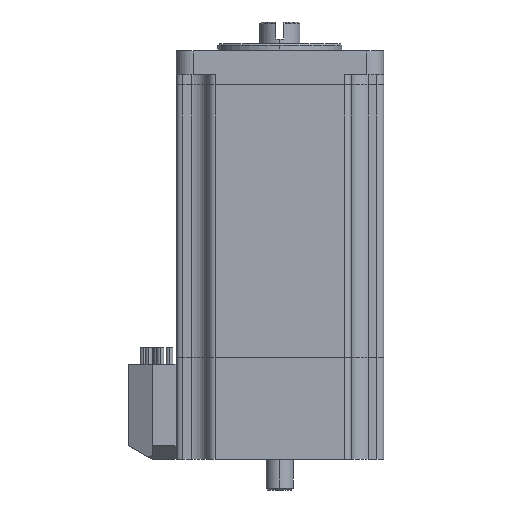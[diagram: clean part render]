
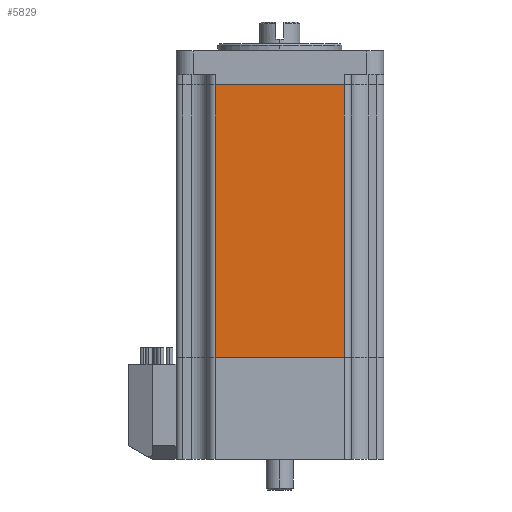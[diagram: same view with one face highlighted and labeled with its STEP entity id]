
A CAD part, left-side view. The second image highlights one B-rep face of the part: STEP entity #5829.
In plain terms, the highlighted planar face has unit normal (-1, 0, 0).
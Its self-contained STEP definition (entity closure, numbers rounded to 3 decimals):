
#1568 = VECTOR ( 'NONE', #6129, 1000. ) ;
#1835 = ORIENTED_EDGE ( 'NONE', *, *, #7580, .T. ) ;
#2394 = ORIENTED_EDGE ( 'NONE', *, *, #8580, .F. ) ;
#2553 = VECTOR ( 'NONE', #13592, 1000. ) ;
#2848 = LINE ( 'NONE', #11276, #2553 ) ;
#3006 = DIRECTION ( 'NONE',  ( 0., 0., 1. ) ) ;
#3385 = CARTESIAN_POINT ( 'NONE',  ( -30.5, -19., -80. ) ) ;
#3440 = VECTOR ( 'NONE', #13781, 1000. ) ;
#3578 = CARTESIAN_POINT ( 'NONE',  ( -30.5, 19., 0. ) ) ;
#4200 = LINE ( 'NONE', #12842, #11175 ) ;
#4295 = EDGE_CURVE ( 'NONE', #7161, #9118, #4200, .T. ) ;
#4450 = ORIENTED_EDGE ( 'NONE', *, *, #5896, .F. ) ;
#5230 = CARTESIAN_POINT ( 'NONE',  ( -30.5, -19., -80. ) ) ;
#5414 = CARTESIAN_POINT ( 'NONE',  ( -30.5, -19., 0. ) ) ;
#5829 = ADVANCED_FACE ( 'NONE', ( #9787 ), #8739, .T. ) ;
#5896 = EDGE_CURVE ( 'NONE', #10855, #7920, #13679, .T. ) ;
#6129 = DIRECTION ( 'NONE',  ( 0., 0., 1. ) ) ;
#6316 = LINE ( 'NONE', #5230, #3440 ) ;
#7161 = VERTEX_POINT ( 'NONE', #10445 ) ;
#7580 = EDGE_CURVE ( 'NONE', #10855, #7161, #6316, .T. ) ;
#7920 = VERTEX_POINT ( 'NONE', #3578 ) ;
#8580 = EDGE_CURVE ( 'NONE', #7920, #9118, #2848, .T. ) ;
#8739 = PLANE ( 'NONE',  #13249 ) ;
#9007 = DIRECTION ( 'NONE',  ( 0., 0., 1. ) ) ;
#9118 = VERTEX_POINT ( 'NONE', #5414 ) ;
#9332 = CARTESIAN_POINT ( 'NONE',  ( -30.5, 19., -80. ) ) ;
#9787 = FACE_OUTER_BOUND ( 'NONE', #12871, .T. ) ;
#10140 = CARTESIAN_POINT ( 'NONE',  ( -30.5, 19., -80. ) ) ;
#10445 = CARTESIAN_POINT ( 'NONE',  ( -30.5, -19., -80. ) ) ;
#10855 = VERTEX_POINT ( 'NONE', #10140 ) ;
#11175 = VECTOR ( 'NONE', #3006, 1000. ) ;
#11276 = CARTESIAN_POINT ( 'NONE',  ( -30.5, -19., 0. ) ) ;
#12489 = DIRECTION ( 'NONE',  ( -1., 0., 0. ) ) ;
#12773 = ORIENTED_EDGE ( 'NONE', *, *, #4295, .T. ) ;
#12842 = CARTESIAN_POINT ( 'NONE',  ( -30.5, -19., -80. ) ) ;
#12871 = EDGE_LOOP ( 'NONE', ( #2394, #4450, #1835, #12773 ) ) ;
#13249 = AXIS2_PLACEMENT_3D ( 'NONE', #3385, #12489, #9007 ) ;
#13592 = DIRECTION ( 'NONE',  ( 0., -1., 0. ) ) ;
#13679 = LINE ( 'NONE', #9332, #1568 ) ;
#13781 = DIRECTION ( 'NONE',  ( 0., -1., 0. ) ) ;
